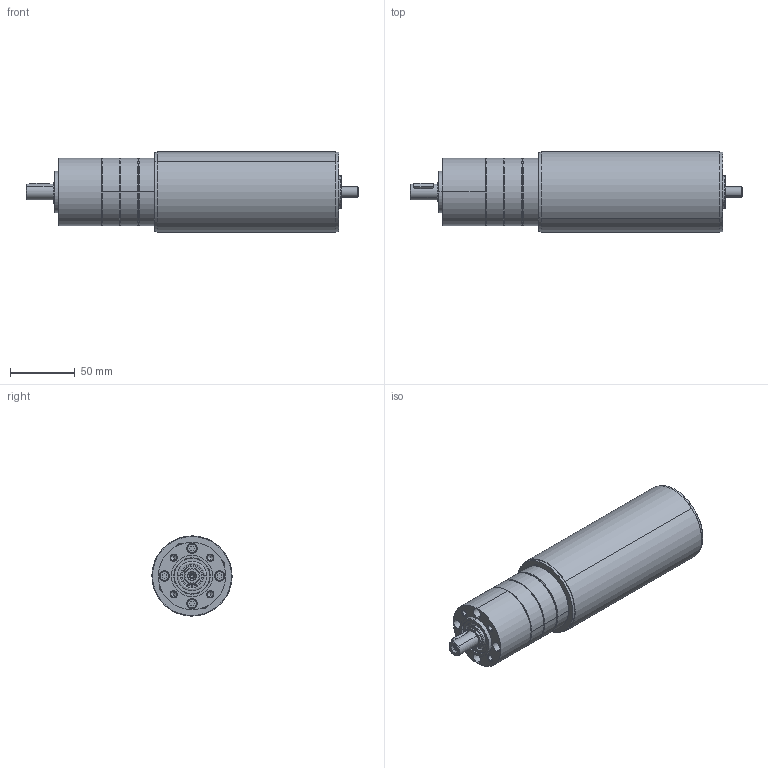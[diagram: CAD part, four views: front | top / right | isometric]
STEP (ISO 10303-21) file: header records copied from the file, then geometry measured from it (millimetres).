
FILE_DESCRIPTION (( 'STEP AP214' ), '1' );
FILE_NAME ('1.25.058-PM52 2 etages.STEP', '2016-01-26T15:53:56', ( '' ), ( '' ), 'SwSTEP 2.0', 'SolidWorks 2014', '' );
FILE_SCHEMA (( 'AUTOMOTIVE_DESIGN' ));
Length unit declared in the file: millimetre
Products named in the file (17): GK2152_POS31_2_LAGERBOLZEN_2; 8101171_ABTRIEB_ROHTEIL_AF0_2; DIN998_PS_12X18X1_2; D625-6001-2RS_2; 8006231_LAGERFLANSCH_2; 8006230_ZAHNKRANZ_Z46_2; 8006405_DICHTRING_2; 1.25.058-PM52 2 etages; 1.25.058.4XX_Part; FLANSCH_1210976_1; PM52 pour EC45Flat-70W_2 etages; Coté moteur^PM52 pour EC45Flat-70W; Coté sortie^PM52 pour EC45Flat-70W; SCHRAUBE_1241978_6; 4X4X16_D6885A_2; D471_12X1_5_2; 8102168_ABTRIEB_LK1_KPL_2
Assembly tree (26 placements, depth 5):
  1.25.058-PM52 2 etages
    PM52 pour EC45Flat-70W_2 etages
      8006405_DICHTRING_2
      8006230_ZAHNKRANZ_Z46_2  x2
      Coté sortie^PM52 pour EC45Flat-70W
        8006231_LAGERFLANSCH_2
        D625-6001-2RS_2  x2
        DIN998_PS_12X18X1_2  x2
        8102168_ABTRIEB_LK1_KPL_2
          8101171_ABTRIEB_ROHTEIL_AF0_2
          GK2152_POS31_2_LAGERBOLZEN_2  x3
        D471_12X1_5_2
        4X4X16_D6885A_2
        8006405_DICHTRING_2
        SCHRAUBE_1241978_6  x4
      Coté moteur^PM52 pour EC45Flat-70W
        8006405_DICHTRING_2
    FLANSCH_1210976_1
    1.25.058.4XX_Part
Bounding box: 256.25 x 62 x 62 mm (x, y, z)
Volume: 463345.9 mm3; surface area: 107427.9 mm2
Topology: 19 solids, 41 shells, 1099 faces, 2799 edges, 1771 vertices
Faces by surface type: cylinder 512, plane 320, cone 215, bspline 52
Entity records: 25835 total; most frequent: CARTESIAN_POINT 4926, DIRECTION 4142, ORIENTED_EDGE 3540, EDGE_CURVE 1790, AXIS2_PLACEMENT_3D 1645, VERTEX_POINT 1145, CIRCLE 902, EDGE_LOOP 871
